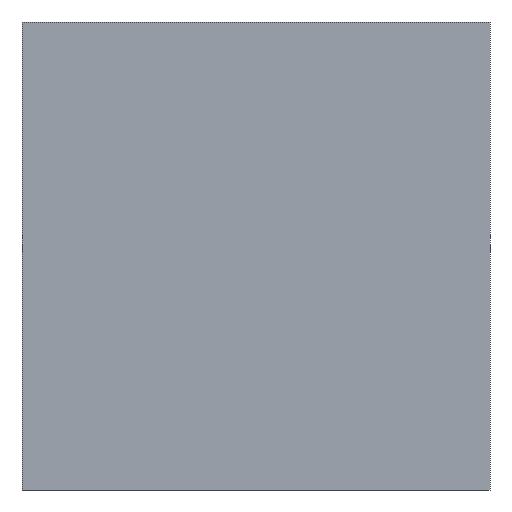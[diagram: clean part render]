
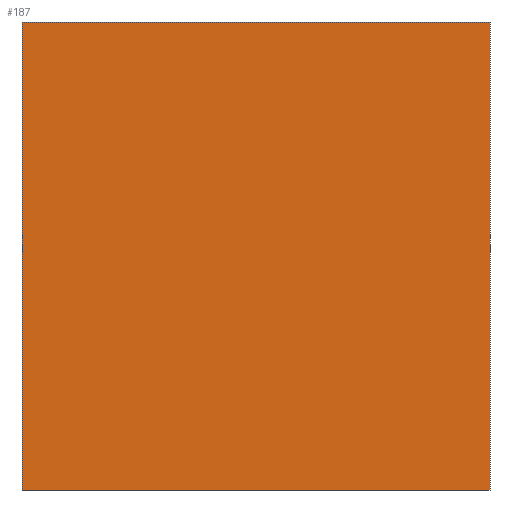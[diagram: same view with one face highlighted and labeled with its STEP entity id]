
A CAD part, left-side view. The second image highlights one B-rep face of the part: STEP entity #187.
In plain terms, the highlighted planar face has unit normal (-1, 0, 0).
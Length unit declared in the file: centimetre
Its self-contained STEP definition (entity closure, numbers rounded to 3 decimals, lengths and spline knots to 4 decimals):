
#4 = VERTEX_POINT ( 'NONE', #16 ) ;
#6 = DIRECTION ( 'NONE',  ( 0., -1., 0. ) ) ;
#14 = VECTOR ( 'NONE', #264, 100. ) ;
#16 = CARTESIAN_POINT ( 'NONE',  ( 0., 0., 0. ) ) ;
#31 = ORIENTED_EDGE ( 'NONE', *, *, #157, .F. ) ;
#35 = VECTOR ( 'NONE', #265, 100. ) ;
#36 = LINE ( 'NONE', #121, #14 ) ;
#38 = DIRECTION ( 'NONE',  ( 1., 0., 0. ) ) ;
#61 = CARTESIAN_POINT ( 'NONE',  ( 0., 1000., 1000. ) ) ;
#62 = DIRECTION ( 'NONE',  ( 0., 0., -1. ) ) ;
#121 = CARTESIAN_POINT ( 'NONE',  ( 0., 1000., 1000. ) ) ;
#140 = VERTEX_POINT ( 'NONE', #61 ) ;
#153 = CARTESIAN_POINT ( 'NONE',  ( 0., 1000., 1000. ) ) ;
#157 = EDGE_CURVE ( 'NONE', #256, #4, #349, .T. ) ;
#170 = ORIENTED_EDGE ( 'NONE', *, *, #329, .T. ) ;
#172 = EDGE_CURVE ( 'NONE', #140, #256, #238, .T. ) ;
#180 = CARTESIAN_POINT ( 'NONE',  ( 0., 0., 1000. ) ) ;
#183 = EDGE_CURVE ( 'NONE', #140, #194, #36, .T. ) ;
#187 = ADVANCED_FACE ( 'NONE', ( #327 ), #323, .F. ) ;
#194 = VERTEX_POINT ( 'NONE', #235 ) ;
#212 = AXIS2_PLACEMENT_3D ( 'NONE', #153, #38, #62 ) ;
#218 = EDGE_LOOP ( 'NONE', ( #170, #31, #224, #283 ) ) ;
#222 = VECTOR ( 'NONE', #6, 100. ) ;
#224 = ORIENTED_EDGE ( 'NONE', *, *, #172, .F. ) ;
#225 = CARTESIAN_POINT ( 'NONE',  ( 0., 1000., 0. ) ) ;
#235 = CARTESIAN_POINT ( 'NONE',  ( 0., 1000., 0. ) ) ;
#238 = LINE ( 'NONE', #295, #222 ) ;
#256 = VERTEX_POINT ( 'NONE', #278 ) ;
#264 = DIRECTION ( 'NONE',  ( 0., 0., -1. ) ) ;
#265 = DIRECTION ( 'NONE',  ( 0., -1., 0. ) ) ;
#278 = CARTESIAN_POINT ( 'NONE',  ( 0., 0., 1000. ) ) ;
#283 = ORIENTED_EDGE ( 'NONE', *, *, #183, .T. ) ;
#295 = CARTESIAN_POINT ( 'NONE',  ( 0., 1000., 1000. ) ) ;
#323 = PLANE ( 'NONE',  #212 ) ;
#327 = FACE_OUTER_BOUND ( 'NONE', #218, .T. ) ;
#329 = EDGE_CURVE ( 'NONE', #194, #4, #369, .T. ) ;
#349 = LINE ( 'NONE', #180, #352 ) ;
#352 = VECTOR ( 'NONE', #353, 100. ) ;
#353 = DIRECTION ( 'NONE',  ( 0., 0., -1. ) ) ;
#369 = LINE ( 'NONE', #225, #35 ) ;
